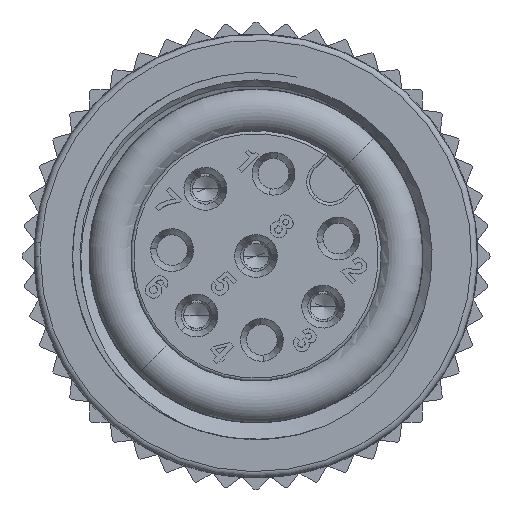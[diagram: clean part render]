
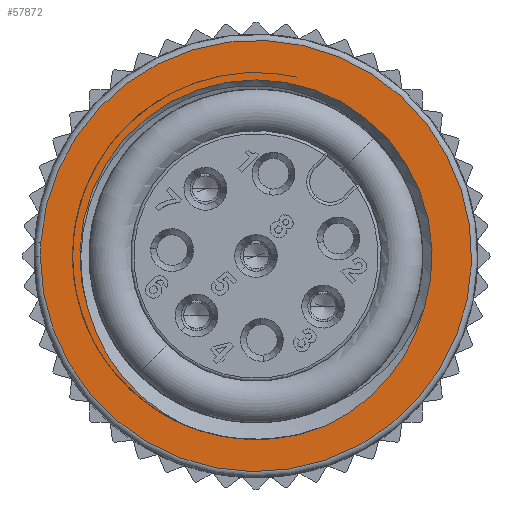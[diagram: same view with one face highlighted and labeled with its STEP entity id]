
A CAD part, left-side view. The second image highlights one B-rep face of the part: STEP entity #57872.
In plain terms, the highlighted planar face has unit normal (-1, 0, 0).
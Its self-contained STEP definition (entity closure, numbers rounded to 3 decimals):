
#10681=CARTESIAN_POINT('',(-116.5,0.,0.));
#10682=DIRECTION('',(1.,0.,0.));
#10683=DIRECTION('',(0.,1.,0.));
#10684=AXIS2_PLACEMENT_3D('',#10681,#10682,#10683);
#10686=CARTESIAN_POINT('',(-116.5,0.,0.));
#10687=DIRECTION('',(1.,0.,0.));
#10688=DIRECTION('',(0.,0.998,0.063));
#10689=AXIS2_PLACEMENT_3D('',#10686,#10687,#10688);
#10691=CARTESIAN_POINT('',(-116.5,-2.296,-5.543));
#10692=CARTESIAN_POINT('',(-116.5,-2.368,-5.51));
#10693=CARTESIAN_POINT('',(-116.5,-2.51,-5.439));
#10694=CARTESIAN_POINT('',(-116.5,-2.719,-5.326));
#10695=CARTESIAN_POINT('',(-116.5,-2.923,-5.204));
#10696=CARTESIAN_POINT('',(-116.5,-3.121,-5.075));
#10697=CARTESIAN_POINT('',(-116.5,-3.314,-4.938));
#10698=CARTESIAN_POINT('',(-116.5,-3.502,-4.793));
#10699=CARTESIAN_POINT('',(-116.5,-3.682,-4.642));
#10700=CARTESIAN_POINT('',(-116.5,-3.857,-4.483));
#10701=CARTESIAN_POINT('',(-116.5,-4.025,-4.318));
#10702=CARTESIAN_POINT('',(-116.5,-4.186,-4.147));
#10703=CARTESIAN_POINT('',(-116.5,-4.34,-3.969));
#10704=CARTESIAN_POINT('',(-116.5,-4.486,-3.786));
#10705=CARTESIAN_POINT('',(-116.5,-4.624,-3.598));
#10706=CARTESIAN_POINT('',(-116.5,-4.755,-3.404));
#10707=CARTESIAN_POINT('',(-116.5,-4.878,
-3.205));
#10708=CARTESIAN_POINT('',(-116.5,-4.993,
-3.002));
#10709=CARTESIAN_POINT('',(-116.5,-5.099,
-2.795));
#10710=CARTESIAN_POINT('',(-116.5,-5.197,
-2.584));
#10711=CARTESIAN_POINT('',(-116.5,-5.286,
-2.37));
#10712=CARTESIAN_POINT('',(-116.5,-5.366,
-2.153));
#10713=CARTESIAN_POINT('',(-116.5,-5.437,
-1.934));
#10714=CARTESIAN_POINT('',(-116.5,-5.479,
-1.787));
#10715=CARTESIAN_POINT('',(-116.5,-5.498,
-1.713));
#10717=CARTESIAN_POINT('',(-116.5,2.296,-5.543));
#10718=CARTESIAN_POINT('',(-116.5,2.368,-5.51));
#10719=CARTESIAN_POINT('',(-116.5,2.51,-5.439));
#10720=CARTESIAN_POINT('',(-116.5,2.719,-5.326));
#10721=CARTESIAN_POINT('',(-116.5,2.923,-5.204));
#10722=CARTESIAN_POINT('',(-116.5,3.121,-5.075));
#10723=CARTESIAN_POINT('',(-116.5,3.315,-4.938));
#10724=CARTESIAN_POINT('',(-116.5,3.502,-4.793));
#10725=CARTESIAN_POINT('',(-116.5,3.683,-4.642));
#10726=CARTESIAN_POINT('',(-116.5,3.857,-4.483));
#10727=CARTESIAN_POINT('',(-116.5,4.025,-4.318));
#10728=CARTESIAN_POINT('',(-116.5,4.186,-4.147));
#10729=CARTESIAN_POINT('',(-116.5,4.34,-3.969));
#10730=CARTESIAN_POINT('',(-116.5,4.486,-3.786));
#10731=CARTESIAN_POINT('',(-116.5,4.625,-3.597));
#10732=CARTESIAN_POINT('',(-116.5,4.755,
-3.404));
#10733=CARTESIAN_POINT('',(-116.5,4.878,
-3.205));
#10734=CARTESIAN_POINT('',(-116.5,4.993,
-3.002));
#10735=CARTESIAN_POINT('',(-116.5,5.099,
-2.795));
#10736=CARTESIAN_POINT('',(-116.5,5.197,
-2.584));
#10737=CARTESIAN_POINT('',(-116.5,5.286,
-2.37));
#10738=CARTESIAN_POINT('',(-116.5,5.366,
-2.153));
#10739=CARTESIAN_POINT('',(-116.5,5.437,
-1.934));
#10740=CARTESIAN_POINT('',(-116.5,5.479,
-1.787));
#10741=CARTESIAN_POINT('',(-116.5,5.498,
-1.713));
#10743=CARTESIAN_POINT('',(-116.5,-2.296,-5.543));
#10744=CARTESIAN_POINT('',(-116.5,-2.224,-5.573));
#10745=CARTESIAN_POINT('',(-116.5,-2.077,-5.631));
#10746=CARTESIAN_POINT('',(-116.5,-1.855,-5.708));
#10747=CARTESIAN_POINT('',(-116.5,-1.629,-5.776));
#10748=CARTESIAN_POINT('',(-116.5,-1.401,-5.836));
#10749=CARTESIAN_POINT('',(-116.5,-1.171,-5.886));
#10750=CARTESIAN_POINT('',(-116.5,-0.939,-5.928));
#10751=CARTESIAN_POINT('',(-116.5,-0.705,-5.96));
#10752=CARTESIAN_POINT('',(-116.5,-0.471,-5.983));
#10753=CARTESIAN_POINT('',(-116.5,-0.236,-5.997));
#10754=CARTESIAN_POINT('',(-116.5,0.,-6.002));
#10755=CARTESIAN_POINT('',(-116.5,0.236,-5.997));
#10756=CARTESIAN_POINT('',(-116.5,0.471,-5.983));
#10757=CARTESIAN_POINT('',(-116.5,0.705,-5.96));
#10758=CARTESIAN_POINT('',(-116.5,0.939,-5.928));
#10759=CARTESIAN_POINT('',(-116.5,1.171,-5.886));
#10760=CARTESIAN_POINT('',(-116.5,1.401,-5.836));
#10761=CARTESIAN_POINT('',(-116.5,1.629,-5.776));
#10762=CARTESIAN_POINT('',(-116.5,1.855,-5.708));
#10763=CARTESIAN_POINT('',(-116.5,2.077,-5.631));
#10764=CARTESIAN_POINT('',(-116.5,2.224,-5.573));
#10765=CARTESIAN_POINT('',(-116.5,2.296,-5.543));
#10767=CARTESIAN_POINT('',(-116.5,-5.498,
-1.713));
#10796=CARTESIAN_POINT('',(-116.5,0.,0.));
#10797=DIRECTION('',(1.,0.,0.));
#10798=DIRECTION('',(0.,0.955,-0.297));
#10799=AXIS2_PLACEMENT_3D('',#10796,#10797,#10798);
#11098=CARTESIAN_POINT('',(-116.5,2.296,-5.543));
#12865=CARTESIAN_POINT('',(-116.5,-2.296,-5.543));
#40523=VERTEX_POINT('',#12865);
#40524=VERTEX_POINT('',#11098);
#40568=VERTEX_POINT('',#10767);
#40570=VERTEX_POINT('',#10741);
#41077=CARTESIAN_POINT('',(-116.5,7.05,0.));
#41078=CARTESIAN_POINT('',(-116.5,7.036,0.443));
#41079=VERTEX_POINT('',#41077);
#41080=VERTEX_POINT('',#41078);
#57853=CARTESIAN_POINT('',(-116.5,0.,0.));
#57854=DIRECTION('',(1.,0.,0.));
#57855=DIRECTION('',(0.,0.,1.));
#57856=AXIS2_PLACEMENT_3D('',#57853,#57854,#57855);
#57857=PLANE('',#57856);
#57858=ORIENTED_EDGE('',*,*,#57738,.T.);
#57859=ORIENTED_EDGE('',*,*,#57716,.T.);
#57860=EDGE_LOOP('',(#57858,#57859));
#57861=FACE_OUTER_BOUND('',#57860,.F.);
#57863=ORIENTED_EDGE('',*,*,#57862,.T.);
#57865=ORIENTED_EDGE('',*,*,#57864,.F.);
#57867=ORIENTED_EDGE('',*,*,#57866,.F.);
#57869=ORIENTED_EDGE('',*,*,#57868,.F.);
#57870=EDGE_LOOP('',(#57863,#57865,#57867,#57869));
#57871=FACE_BOUND('',#57870,.F.);
#57872=ADVANCED_FACE('',(#57861,#57871),#57857,.F.);
#10685=CIRCLE('',#10684,7.05);
#10690=CIRCLE('',#10689,7.05);
#10716=B_SPLINE_CURVE_WITH_KNOTS('',3,(#10691,#10692,#10693,#10694,#10695,
#10696,#10697,#10698,#10699,#10700,#10701,#10702,#10703,#10704,#10705,#10706,
#10707,#10708,#10709,#10710,#10711,#10712,#10713,#10714,#10715),.UNSPECIFIED.,
.F.,.F.,(4,1,1,1,1,1,1,1,1,1,1,1,1,1,1,1,1,1,1,1,1,1,4),(0.,0.045,
0.091,0.136,0.182,0.227,
0.273,0.318,0.364,0.409,
0.455,0.5,0.545,0.591,0.636,
0.682,0.727,0.773,0.818,
0.864,0.909,0.955,1.),.UNSPECIFIED.);
#10742=B_SPLINE_CURVE_WITH_KNOTS('',3,(#10717,#10718,#10719,#10720,#10721,
#10722,#10723,#10724,#10725,#10726,#10727,#10728,#10729,#10730,#10731,#10732,
#10733,#10734,#10735,#10736,#10737,#10738,#10739,#10740,#10741),.UNSPECIFIED.,
.F.,.F.,(4,1,1,1,1,1,1,1,1,1,1,1,1,1,1,1,1,1,1,1,1,1,4),(0.,0.045,
0.091,0.136,0.182,0.227,
0.273,0.318,0.364,0.409,
0.455,0.5,0.545,0.591,0.636,
0.682,0.727,0.773,0.818,
0.864,0.909,0.955,1.),.UNSPECIFIED.);
#10766=B_SPLINE_CURVE_WITH_KNOTS('',3,(#10743,#10744,#10745,#10746,#10747,
#10748,#10749,#10750,#10751,#10752,#10753,#10754,#10755,#10756,#10757,#10758,
#10759,#10760,#10761,#10762,#10763,#10764,#10765),.UNSPECIFIED.,.F.,.F.,(4,1,1,
1,1,1,1,1,1,1,1,1,1,1,1,1,1,1,1,1,4),(0.,0.05,0.1,0.15,0.2,0.25,
0.3,0.35,0.4,0.45,0.5,0.55,0.6,0.65,0.7,0.75,0.8,0.85,
0.9,0.95,1.),.UNSPECIFIED.);
#10800=CIRCLE('',#10799,5.759);
#57716=EDGE_CURVE('',#41080,#41079,#10690,.T.);
#57738=EDGE_CURVE('',#41079,#41080,#10685,.T.);
#57862=EDGE_CURVE('',#40523,#40568,#10716,.T.);
#57864=EDGE_CURVE('',#40570,#40568,#10800,.T.);
#57866=EDGE_CURVE('',#40524,#40570,#10742,.T.);
#57868=EDGE_CURVE('',#40523,#40524,#10766,.T.);
